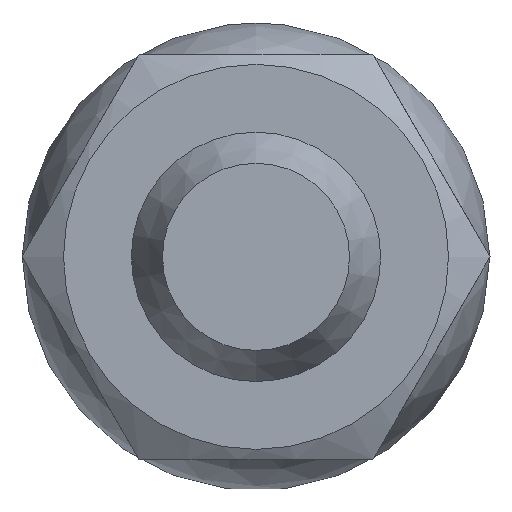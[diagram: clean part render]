
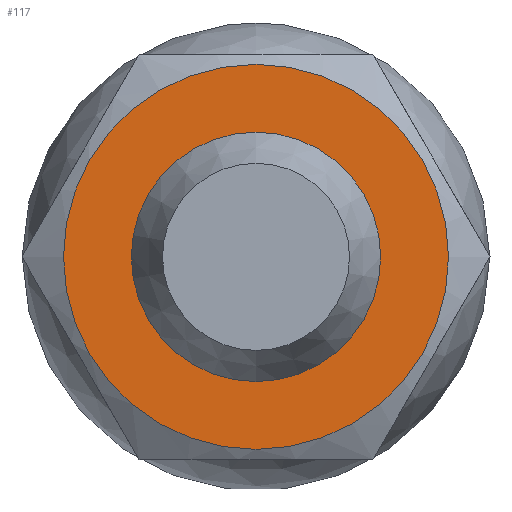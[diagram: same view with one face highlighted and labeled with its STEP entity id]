
A CAD part, left-side view. The second image highlights one B-rep face of the part: STEP entity #117.
In plain terms, the highlighted planar face has unit normal (-1, 0, 0).
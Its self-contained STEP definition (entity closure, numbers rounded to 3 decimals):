
#117=ADVANCED_FACE('',(#423,#425),#427,.T.);
#423=FACE_BOUND('',#424,.T.);
#424=EDGE_LOOP('',(#677));
#425=FACE_BOUND('',#426,.T.);
#426=EDGE_LOOP('',(#678));
#427=PLANE('',#428);
#428=AXIS2_PLACEMENT_3D('',#429,#430,#431);
#429=CARTESIAN_POINT('',(-21.8,0.,0.));
#430=DIRECTION('',(-1.,0.,0.));
#431=DIRECTION('',(0.,0.,1.));
#677=ORIENTED_EDGE('',*,*,#821,.T.);
#678=ORIENTED_EDGE('',*,*,#818,.T.);
#818=EDGE_CURVE('',#893,#893,#894,.F.);
#821=EDGE_CURVE('',#899,#899,#900,.F.);
#893=VERTEX_POINT('',#1028);
#894=CIRCLE('',#1029,4.);
#899=VERTEX_POINT('',#1043);
#900=CIRCLE('',#1044,6.175);
#1028=CARTESIAN_POINT('',(-21.8,-4.,0.));
#1029=AXIS2_PLACEMENT_3D('',#1030,#1031,#1032);
#1030=CARTESIAN_POINT('',(-21.8,0.,0.));
#1031=DIRECTION('',(-1.,0.,0.));
#1032=DIRECTION('',(0.,-1.,0.));
#1043=CARTESIAN_POINT('',(-21.8,-5.348,-3.087));
#1044=AXIS2_PLACEMENT_3D('',#1045,#1046,#1047);
#1045=CARTESIAN_POINT('',(-21.8,0.,0.));
#1046=DIRECTION('',(1.,0.,0.));
#1047=DIRECTION('',(0.,1.,0.));
